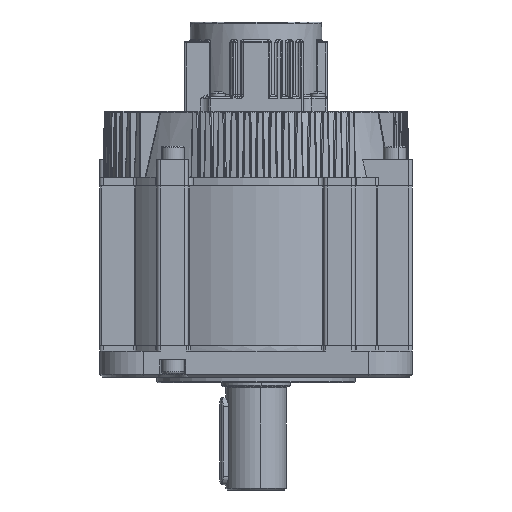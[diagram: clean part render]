
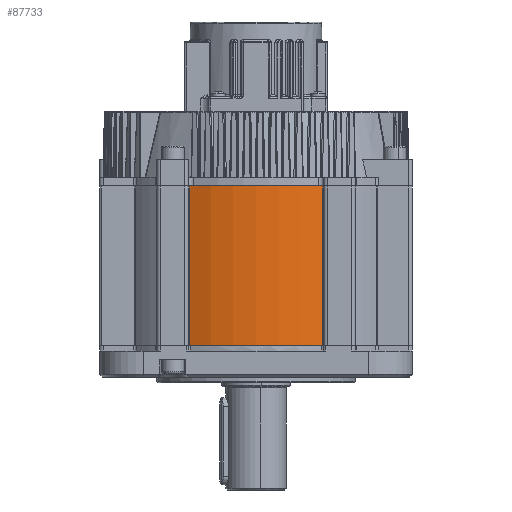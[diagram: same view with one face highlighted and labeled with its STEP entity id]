
A CAD part, front view. The second image highlights one B-rep face of the part: STEP entity #87733.
In plain terms, the highlighted cylindrical face has radius 90 mm (diameter 180 mm), a partial arc.
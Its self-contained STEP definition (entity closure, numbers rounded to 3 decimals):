
#3510 = CARTESIAN_POINT ( 'NONE',  ( -38.287, -81.45, 92. ) ) ;
#3899 = DIRECTION ( 'NONE',  ( -1., 0., 0. ) ) ;
#18755 = LINE ( 'NONE', #46026, #31736 ) ;
#20510 = EDGE_CURVE ( 'NONE', #56189, #35129, #28753, .T. ) ;
#21152 = ORIENTED_EDGE ( 'NONE', *, *, #25344, .F. ) ;
#23132 = AXIS2_PLACEMENT_3D ( 'NONE', #79158, #37878, #3899 ) ;
#24605 = DIRECTION ( 'NONE',  ( 1., 0., 0. ) ) ;
#25344 = EDGE_CURVE ( 'NONE', #76408, #35129, #18755, .T. ) ;
#26246 = CARTESIAN_POINT ( 'NONE',  ( 0., 0., 92. ) ) ;
#28753 = CIRCLE ( 'NONE', #34185, 90. ) ;
#29339 = EDGE_CURVE ( 'NONE', #71263, #76408, #39904, .T. ) ;
#31736 = VECTOR ( 'NONE', #53269, 1000. ) ;
#34185 = AXIS2_PLACEMENT_3D ( 'NONE', #58970, #45406, #24605 ) ;
#34916 = CARTESIAN_POINT ( 'NONE',  ( -38.287, -81.45, 92. ) ) ;
#35129 = VERTEX_POINT ( 'NONE', #81646 ) ;
#36003 = VECTOR ( 'NONE', #38083, 1000. ) ;
#36919 = AXIS2_PLACEMENT_3D ( 'NONE', #26246, #74470, #88920 ) ;
#37878 = DIRECTION ( 'NONE',  ( 0., 0., -1. ) ) ;
#38083 = DIRECTION ( 'NONE',  ( 0., 0., -1. ) ) ;
#39904 = CIRCLE ( 'NONE', #36919, 90. ) ;
#45406 = DIRECTION ( 'NONE',  ( 0., 0., 1. ) ) ;
#46026 = CARTESIAN_POINT ( 'NONE',  ( 38.287, -81.45, 92. ) ) ;
#46850 = FACE_OUTER_BOUND ( 'NONE', #52504, .T. ) ;
#47905 = EDGE_CURVE ( 'NONE', #71263, #56189, #70502, .T. ) ;
#50544 = ORIENTED_EDGE ( 'NONE', *, *, #20510, .T. ) ;
#52504 = EDGE_LOOP ( 'NONE', ( #50544, #21152, #62684, #86233 ) ) ;
#53269 = DIRECTION ( 'NONE',  ( 0., 0., -1. ) ) ;
#56189 = VERTEX_POINT ( 'NONE', #76977 ) ;
#58970 = CARTESIAN_POINT ( 'NONE',  ( 0., 0., 0. ) ) ;
#62684 = ORIENTED_EDGE ( 'NONE', *, *, #29339, .F. ) ;
#70502 = LINE ( 'NONE', #3510, #36003 ) ;
#71263 = VERTEX_POINT ( 'NONE', #34916 ) ;
#74470 = DIRECTION ( 'NONE',  ( 0., 0., 1. ) ) ;
#76408 = VERTEX_POINT ( 'NONE', #76800 ) ;
#76800 = CARTESIAN_POINT ( 'NONE',  ( 38.287, -81.45, 92. ) ) ;
#76977 = CARTESIAN_POINT ( 'NONE',  ( -38.287, -81.45, 0. ) ) ;
#79158 = CARTESIAN_POINT ( 'NONE',  ( 0., 0., 92. ) ) ;
#81646 = CARTESIAN_POINT ( 'NONE',  ( 38.287, -81.45, 0. ) ) ;
#83491 = CYLINDRICAL_SURFACE ( 'NONE', #23132, 90. ) ;
#86233 = ORIENTED_EDGE ( 'NONE', *, *, #47905, .T. ) ;
#87733 = ADVANCED_FACE ( 'NONE', ( #46850 ), #83491, .T. ) ;
#88920 = DIRECTION ( 'NONE',  ( 1., 0., 0. ) ) ;
